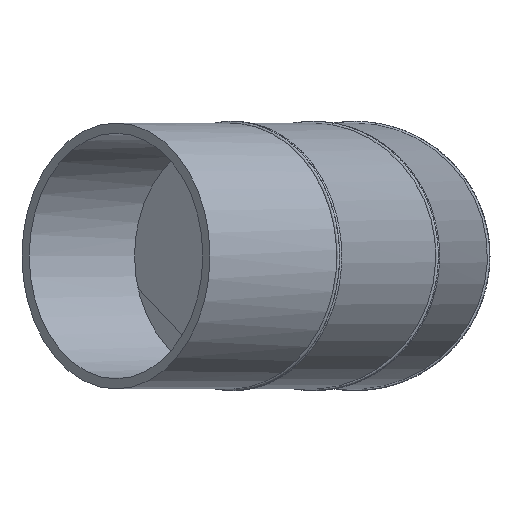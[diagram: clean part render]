
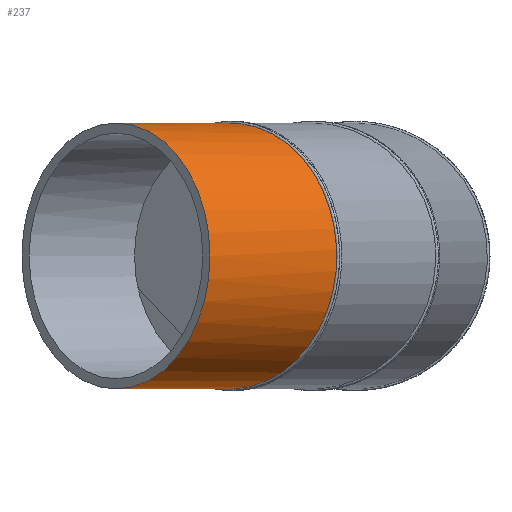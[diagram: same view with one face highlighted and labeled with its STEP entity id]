
A CAD part, front view. The second image highlights one B-rep face of the part: STEP entity #237.
In plain terms, the highlighted cylindrical face has radius 315 mm (diameter 630 mm), a full revolution.
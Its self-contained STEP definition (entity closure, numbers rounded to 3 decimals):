
#41=B_SPLINE_CURVE_WITH_KNOTS('',3,(#403,#404,#405,#406,#407,#408,#409,
#410,#411,#412,#413,#414,#415,#416,#417,#418,#419,#420,#421,#422,#423,#424,
#425,#426,#427,#428,#429,#430,#431,#432,#433,#434,#435,#436,#437),
 .UNSPECIFIED.,.T.,.F.,(1,1,1,1,1,1,1,1,1,1,1,1,1,1,1,1,1,1,1,1,1,1,1,1,
1,1,1,1,1,1,1,1,1,1,1,1,1,1,1),(-0.186,-0.124,-0.062,
0.,0.062,0.124,0.186,
0.249,0.311,0.373,0.435,
0.497,0.559,0.622,0.684,
0.746,0.808,0.87,0.932,
0.995,1.057,1.119,1.181,1.243,
1.305,1.368,1.43,1.492,1.554,
1.616,1.678,1.741,1.803,1.865,
1.927,1.989,2.051,2.114,2.176),
 .UNSPECIFIED.);
#50=CYLINDRICAL_SURFACE('',#287,315.);
#82=ORIENTED_EDGE('',*,*,#134,.T.);
#83=ORIENTED_EDGE('',*,*,#127,.F.);
#127=EDGE_CURVE('',#153,#153,#173,.T.);
#134=EDGE_CURVE('',#160,#160,#41,.T.);
#153=VERTEX_POINT('',#388);
#160=VERTEX_POINT('',#438);
#173=CIRCLE('',#279,315.);
#179=EDGE_LOOP('',(#82));
#180=EDGE_LOOP('',(#83));
#207=FACE_BOUND('',#179,.T.);
#208=FACE_BOUND('',#180,.T.);
#237=ADVANCED_FACE('',(#207,#208),#50,.T.);
#279=AXIS2_PLACEMENT_3D('',#387,#317,#318);
#287=AXIS2_PLACEMENT_3D('',#402,#333,#334);
#317=DIRECTION('',(0.,1.,0.));
#318=DIRECTION('',(-1.,0.,0.));
#333=DIRECTION('',(0.,1.,0.));
#334=DIRECTION('',(-1.,0.,0.));
#387=CARTESIAN_POINT('',(1454.363,200.,0.));
#388=CARTESIAN_POINT('',(1139.363,200.,0.));
#402=CARTESIAN_POINT('',(1454.363,-232.941,0.));
#403=CARTESIAN_POINT('',(1143.464,-142.504,-62.139));
#404=CARTESIAN_POINT('',(1137.313,-141.696,0.005));
#405=CARTESIAN_POINT('',(1143.461,-142.504,62.118));
#406=CARTESIAN_POINT('',(1161.644,-144.894,121.786));
#407=CARTESIAN_POINT('',(1191.116,-148.768,176.673));
#408=CARTESIAN_POINT('',(1230.682,-153.971,224.667));
#409=CARTESIAN_POINT('',(1278.769,-160.295,263.952));
#410=CARTESIAN_POINT('',(1333.499,-167.494,293.074));
#411=CARTESIAN_POINT('',(1392.776,-175.294,310.974));
#412=CARTESIAN_POINT('',(1454.361,-183.401,317.013));
#413=CARTESIAN_POINT('',(1515.945,-191.51,310.975));
#414=CARTESIAN_POINT('',(1575.22,-199.317,293.077));
#415=CARTESIAN_POINT('',(1629.95,-206.528,263.956));
#416=CARTESIAN_POINT('',(1678.031,-212.865,224.68));
#417=CARTESIAN_POINT('',(1717.61,-218.083,176.675));
#418=CARTESIAN_POINT('',(1747.08,-221.968,121.791));
#419=CARTESIAN_POINT('',(1765.264,-224.366,62.124));
#420=CARTESIAN_POINT('',(1771.412,-225.177,0.01));
#421=CARTESIAN_POINT('',(1765.268,-224.367,-62.104));
#422=CARTESIAN_POINT('',(1747.088,-221.969,-121.772));
#423=CARTESIAN_POINT('',(1717.622,-218.084,-176.656));
#424=CARTESIAN_POINT('',(1678.05,-212.868,-224.662));
#425=CARTESIAN_POINT('',(1629.968,-206.531,-263.944));
#426=CARTESIAN_POINT('',(1575.24,-199.32,-293.069));
#427=CARTESIAN_POINT('',(1515.965,-191.512,-310.971));
#428=CARTESIAN_POINT('',(1454.38,-183.403,-317.013));
#429=CARTESIAN_POINT('',(1392.796,-175.297,-310.978));
#430=CARTESIAN_POINT('',(1333.518,-167.497,-293.082));
#431=CARTESIAN_POINT('',(1278.787,-160.297,-263.963));
#432=CARTESIAN_POINT('',(1230.703,-153.973,-224.688));
#433=CARTESIAN_POINT('',(1191.122,-148.769,-176.683));
#434=CARTESIAN_POINT('',(1161.65,-144.895,-121.798));
#435=CARTESIAN_POINT('',(1143.464,-142.504,-62.139));
#436=CARTESIAN_POINT('',(1137.313,-141.696,0.005));
#437=CARTESIAN_POINT('',(1143.461,-142.504,62.118));
#438=CARTESIAN_POINT('',(1139.363,-141.965,0.));
